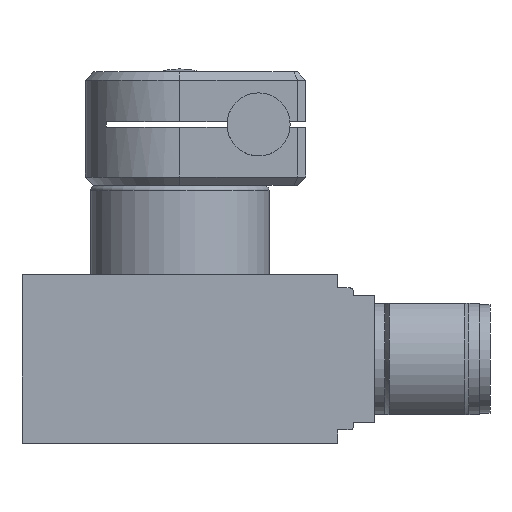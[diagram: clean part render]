
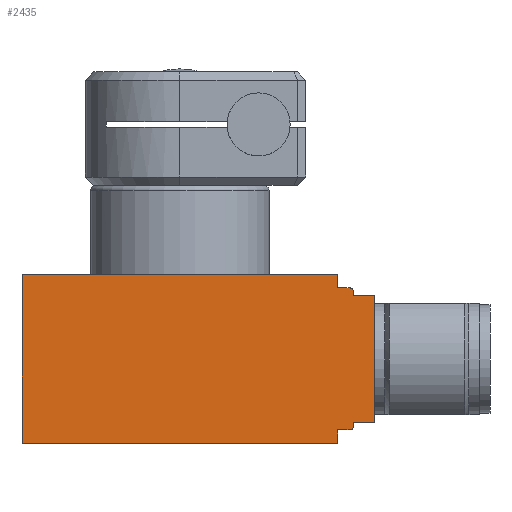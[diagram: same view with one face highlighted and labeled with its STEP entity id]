
A CAD part, front view. The second image highlights one B-rep face of the part: STEP entity #2435.
In plain terms, the highlighted planar face has unit normal (0, -1, 0) as drawn and (0, 0, -1) by its records, which use the part's own axes.
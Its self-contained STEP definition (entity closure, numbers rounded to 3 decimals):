
#40=LINE('',#3595,#270);
#48=LINE('',#3610,#278);
#80=LINE('',#3713,#310);
#96=LINE('',#3758,#326);
#112=LINE('',#3791,#342);
#113=LINE('',#3794,#343);
#114=LINE('',#3798,#344);
#115=LINE('',#3800,#345);
#116=LINE('',#3802,#346);
#117=LINE('',#3804,#347);
#118=LINE('',#3806,#348);
#119=LINE('',#3809,#349);
#270=VECTOR('',#2863,1.25);
#278=VECTOR('',#2871,1.25);
#310=VECTOR('',#2975,30.);
#326=VECTOR('',#3019,16.);
#342=VECTOR('',#3057,30.);
#343=VECTOR('',#3060,1.2);
#344=VECTOR('',#3063,0.45);
#345=VECTOR('',#3064,2.);
#346=VECTOR('',#3065,12.);
#347=VECTOR('',#3066,2.);
#348=VECTOR('',#3067,0.45);
#349=VECTOR('',#3070,1.2);
#530=PLANE('',#2631);
#675=FACE_OUTER_BOUND('',#835,.T.);
#835=EDGE_LOOP('',(#1848,#1849,#1850,#1851,#1852,#1853,#1854,#1855,#1856,
#1857,#1858,#1859,#1860,#1861));
#983=CIRCLE('',#2632,0.3);
#984=CIRCLE('',#2633,0.3);
#1059=VERTEX_POINT('',#3587);
#1062=VERTEX_POINT('',#3592);
#1063=VERTEX_POINT('',#3594);
#1070=VERTEX_POINT('',#3608);
#1105=VERTEX_POINT('',#3711);
#1120=VERTEX_POINT('',#3756);
#1127=VERTEX_POINT('',#3793);
#1128=VERTEX_POINT('',#3795);
#1129=VERTEX_POINT('',#3797);
#1130=VERTEX_POINT('',#3799);
#1131=VERTEX_POINT('',#3801);
#1132=VERTEX_POINT('',#3803);
#1133=VERTEX_POINT('',#3805);
#1134=VERTEX_POINT('',#3807);
#1296=EDGE_CURVE('',#1063,#1062,#40,.T.);
#1304=EDGE_CURVE('',#1059,#1070,#48,.T.);
#1353=EDGE_CURVE('',#1070,#1105,#80,.T.);
#1375=EDGE_CURVE('',#1120,#1105,#96,.T.);
#1392=EDGE_CURVE('',#1120,#1063,#112,.T.);
#1393=EDGE_CURVE('',#1062,#1127,#113,.T.);
#1394=EDGE_CURVE('',#1127,#1128,#983,.T.);
#1395=EDGE_CURVE('',#1128,#1129,#114,.T.);
#1396=EDGE_CURVE('',#1129,#1130,#115,.T.);
#1397=EDGE_CURVE('',#1131,#1130,#116,.T.);
#1398=EDGE_CURVE('',#1132,#1131,#117,.T.);
#1399=EDGE_CURVE('',#1133,#1132,#118,.T.);
#1400=EDGE_CURVE('',#1134,#1133,#984,.T.);
#1401=EDGE_CURVE('',#1059,#1134,#119,.T.);
#1848=ORIENTED_EDGE('',*,*,#1393,.T.);
#1849=ORIENTED_EDGE('',*,*,#1394,.T.);
#1850=ORIENTED_EDGE('',*,*,#1395,.T.);
#1851=ORIENTED_EDGE('',*,*,#1396,.T.);
#1852=ORIENTED_EDGE('',*,*,#1397,.F.);
#1853=ORIENTED_EDGE('',*,*,#1398,.F.);
#1854=ORIENTED_EDGE('',*,*,#1399,.F.);
#1855=ORIENTED_EDGE('',*,*,#1400,.F.);
#1856=ORIENTED_EDGE('',*,*,#1401,.F.);
#1857=ORIENTED_EDGE('',*,*,#1304,.T.);
#1858=ORIENTED_EDGE('',*,*,#1353,.T.);
#1859=ORIENTED_EDGE('',*,*,#1375,.F.);
#1860=ORIENTED_EDGE('',*,*,#1392,.T.);
#1861=ORIENTED_EDGE('',*,*,#1296,.T.);
#2435=ADVANCED_FACE('',(#675),#530,.F.);
#2631=AXIS2_PLACEMENT_3D('',#3792,#3058,#3059);
#2632=AXIS2_PLACEMENT_3D('',#3796,#3061,#3062);
#2633=AXIS2_PLACEMENT_3D('',#3808,#3068,#3069);
#2863=DIRECTION('',(0.,-1.,0.));
#2871=DIRECTION('',(0.,-1.,0.));
#2975=DIRECTION('',(-1.,0.,0.));
#3019=DIRECTION('',(0.,-1.,0.));
#3057=DIRECTION('',(1.,0.,0.));
#3058=DIRECTION('center_axis',(0.,0.,1.));
#3059=DIRECTION('ref_axis',(1.,0.,0.));
#3060=DIRECTION('',(1.,0.,0.));
#3061=DIRECTION('center_axis',(0.,0.,-1.));
#3062=DIRECTION('ref_axis',(0.707,0.707,0.));
#3063=DIRECTION('',(0.,-1.,0.));
#3064=DIRECTION('',(1.,0.,0.));
#3065=DIRECTION('',(0.,1.,0.));
#3066=DIRECTION('',(1.,0.,0.));
#3067=DIRECTION('',(0.,1.,0.));
#3068=DIRECTION('center_axis',(0.,0.,1.));
#3069=DIRECTION('ref_axis',(0.707,-0.707,0.));
#3070=DIRECTION('',(1.,0.,0.));
#3587=CARTESIAN_POINT('',(15.,-14.75,-43.));
#3592=CARTESIAN_POINT('',(15.,-1.25,-43.));
#3594=CARTESIAN_POINT('',(15.,0.,-43.));
#3595=CARTESIAN_POINT('',(15.,0.,-43.));
#3608=CARTESIAN_POINT('',(15.,-16.,-43.));
#3610=CARTESIAN_POINT('',(15.,-14.75,-43.));
#3711=CARTESIAN_POINT('',(-15.,-16.,-43.));
#3713=CARTESIAN_POINT('',(15.,-16.,-43.));
#3756=CARTESIAN_POINT('',(-15.,0.,-43.));
#3758=CARTESIAN_POINT('',(-15.,0.,-43.));
#3791=CARTESIAN_POINT('',(-15.,0.,-43.));
#3792=CARTESIAN_POINT('Origin',(1.75,-16.,-43.));
#3793=CARTESIAN_POINT('',(16.2,-1.25,-43.));
#3794=CARTESIAN_POINT('',(15.,-1.25,-43.));
#3795=CARTESIAN_POINT('',(16.5,-1.55,-43.));
#3796=CARTESIAN_POINT('Origin',(16.2,-1.55,-43.));
#3797=CARTESIAN_POINT('',(16.5,-2.,-43.));
#3798=CARTESIAN_POINT('',(16.5,-1.55,-43.));
#3799=CARTESIAN_POINT('',(18.5,-2.,-43.));
#3800=CARTESIAN_POINT('',(16.5,-2.,-43.));
#3801=CARTESIAN_POINT('',(18.5,-14.,-43.));
#3802=CARTESIAN_POINT('',(18.5,-14.,-43.));
#3803=CARTESIAN_POINT('',(16.5,-14.,-43.));
#3804=CARTESIAN_POINT('',(16.5,-14.,-43.));
#3805=CARTESIAN_POINT('',(16.5,-14.45,-43.));
#3806=CARTESIAN_POINT('',(16.5,-14.45,-43.));
#3807=CARTESIAN_POINT('',(16.2,-14.75,-43.));
#3808=CARTESIAN_POINT('Origin',(16.2,-14.45,-43.));
#3809=CARTESIAN_POINT('',(15.,-14.75,-43.));
